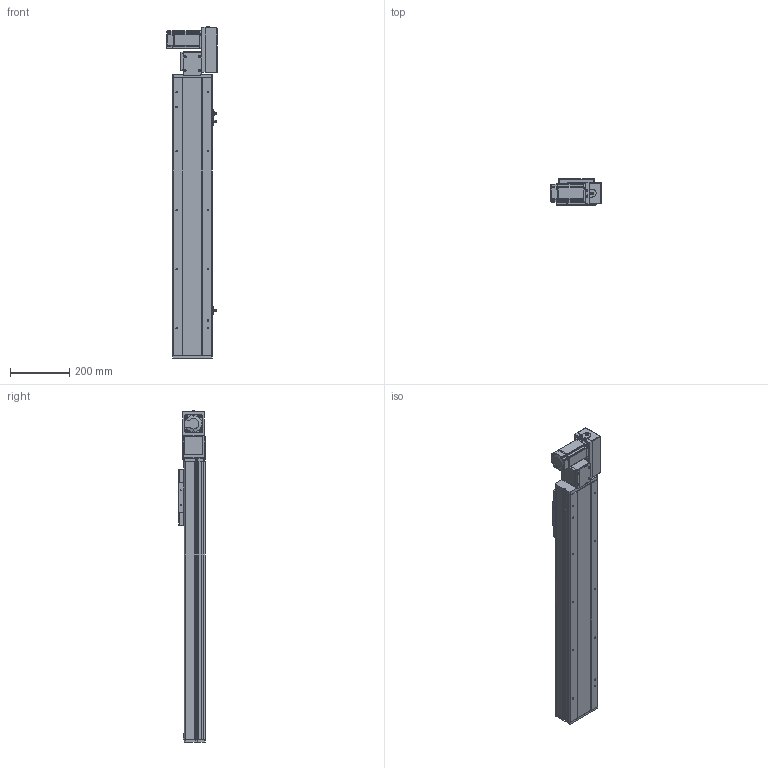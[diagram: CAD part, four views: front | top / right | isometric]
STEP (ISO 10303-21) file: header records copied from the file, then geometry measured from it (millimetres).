
FILE_DESCRIPTION (( 'STEP AP214' ), '1' );
FILE_NAME ('TPE14-L40-650-R-T40-C4.STEP', '2023-04-13T05:48:44', ( '' ), ( '' ), 'SwSTEP 2.0', 'SolidWorks 2020', '' );
FILE_SCHEMA (( 'AUTOMOTIVE_DESIGN' ));
Length unit declared in the file: millimetre
Products named in the file (10): 葩璃 TPE14-L-002 耜裔ZTMZ-135-04^TPE14-L40-R-T40-C4; 葩璃 TPT14-L-009 萇儂啣^TPE14-L40-R-T40-C4_400W; 葩璃 侂狟400W^TPE14-L40-R-T40-C4; TPE14-L40-650-R-T40-C4; 葩璃 TPE14 賑雄殤^TPE14-L40-R-T40-C4; 葩璃 詩湍75^TPE14-L40-R-T40-C4; 葩璃 TPE14-L-001 菁釱MZ-135-01^TPE14-L40-R-T40-C4; 葩璃 TPE14-L-007 々湍釱MZ-169x88^TPE14-L40-R-T40-C4_YCB14; hexagon head bolts-full thread gb_GB_FASTENER_BOLT_STBAB A M5X16-N; 葩璃 pm-t65-672^TPE14-L40-R-T40-C4
Assembly tree (12 placements, depth 2):
  TPE14-L40-650-R-T40-C4
    葩璃 TPE14-L-001 菁釱MZ-135-01^TPE14-L40-R-T40-C4
    葩璃 TPE14-L-002 耜裔ZTMZ-135-04^TPE14-L40-R-T40-C4  x2
    葩璃 詩湍75^TPE14-L40-R-T40-C4
    葩璃 TPE14-L-007 々湍釱MZ-169x88^TPE14-L40-R-T40-C4_YCB14
    葩璃 TPT14-L-009 萇儂啣^TPE14-L40-R-T40-C4_400W
    葩璃 TPE14 賑雄殤^TPE14-L40-R-T40-C4
    葩璃 pm-t65-672^TPE14-L40-R-T40-C4  x3
    葩璃 侂狟400W^TPE14-L40-R-T40-C4
    hexagon head bolts-full thread gb_GB_FASTENER_BOLT_STBAB A M5X16-N
Bounding box: 172.5 x 91 x 1125.15 mm (x, y, z)
Volume: 5543445.3 mm3; surface area: 1131343.2 mm2
Topology: 23 solids, 23 shells, 1396 faces, 3627 edges, 2310 vertices
Faces by surface type: plane 823, cylinder 413, cone 126, bspline 34
Entity records: 37091 total; most frequent: CARTESIAN_POINT 7286, DIRECTION 5928, ORIENTED_EDGE 5762, EDGE_CURVE 2881, AXIS2_PLACEMENT_3D 2006, LINE 1916, VECTOR 1916, VERTEX_POINT 1858
